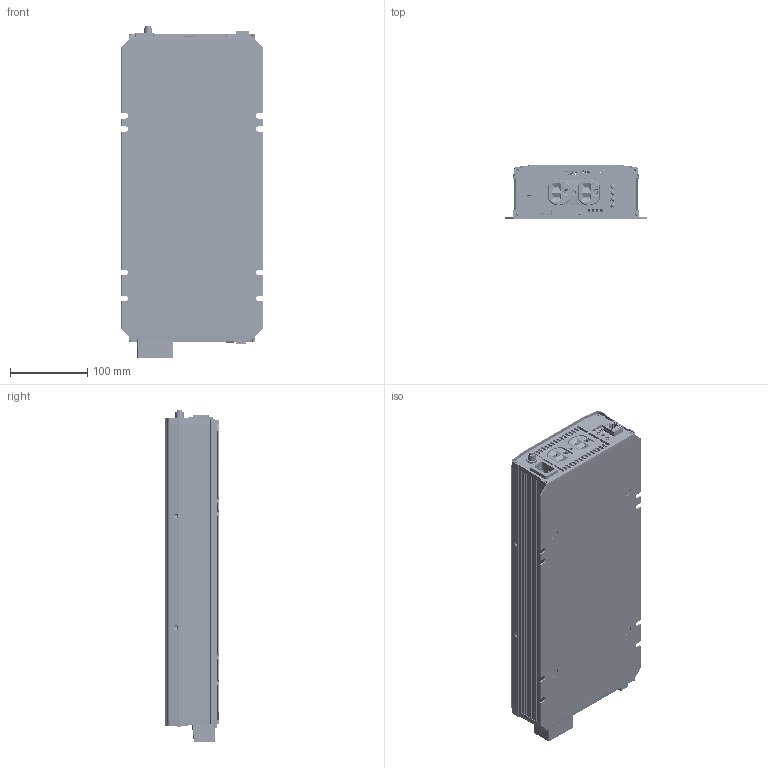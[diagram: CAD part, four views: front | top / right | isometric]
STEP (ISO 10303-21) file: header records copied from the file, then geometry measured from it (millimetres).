
FILE_DESCRIPTION(('Creo Elements/Direct Modeling STEP Export'),'2;1');
FILE_NAME('NTU-1700US.stp','2022-03-22T10:55:44',(''),(''),'PTC Creo Elements/Direct Modeling STEP processor for AP214 (Solid Model)','PTC Creo Elements/Direct Modeling 19.0E 27-Jun-2016 (C) Parametric Technology GmbH','');
FILE_SCHEMA(('AUTOMOTIVE_DESIGN { 1 0 10303 214 1 1 1 1 }'));
Length unit declared in the file: millimetre
Products named in the file (301): 热敏.1; 热敏; 接地端子; _S___S_G_S_NA_S___S_H_X2_02DC__.PRT; TSW; TO247.22; TO247.21; TO247.12; TO247.11; TO220.27; TO220.26; TO220.25; TO220.24; TO220.23; TO220.22; TO220.21; TO220.18; TO220.17; TO220.16; TO220.15; TO220.14; TO220.13; TO220.12; TO220.11; THERMAL_PAD-2_5.PRT; THERMAL_PAD-1_8.PRT; SW65A; SI_PRT_16_1_1_5.PRT; PHONE_JACK_1.PRT; PCBF; PCBE; PCBC; PCBB; PCBA; PCB-D; P1.PRT; ON-OFF; MYLAR_PRT_16_1_1_5.PRT; MYLAR-2_5.PRT; MOSTO3P_1_1_PRT_16_1_1_5.PRT.42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
Assembly tree (129 placements, depth 2):
  热敏.1
    热敏.1
  热敏
    热敏
  接地端子
    接地端子
  _S___S_G_S_NA_S___S_H_X2_02DC__.PRT
    _S___S_G_S_NA_S___S_H_X2_02DC__.PRT
  TSW
    TSW
Bounding box: 183.99 x 70 x 431.06 mm (x, y, z)
Volume: 1447027 mm3; surface area: 1331990.6 mm2
Topology: 183 solids, 183 shells, 8090 faces, 21568 edges, 14101 vertices
Faces by surface type: plane 5647, cylinder 1687, cone 391, bspline 138, torus 121, sphere 99, extrusion 7
Entity records: 281115 total; most frequent: CARTESIAN_POINT 56022, ORIENTED_EDGE 44532, DIRECTION 40577, EDGE_CURVE 22254, VECTOR 16809, LINE 16802, VERTEX_POINT 14536, AXIS2_PLACEMENT_3D 11884
